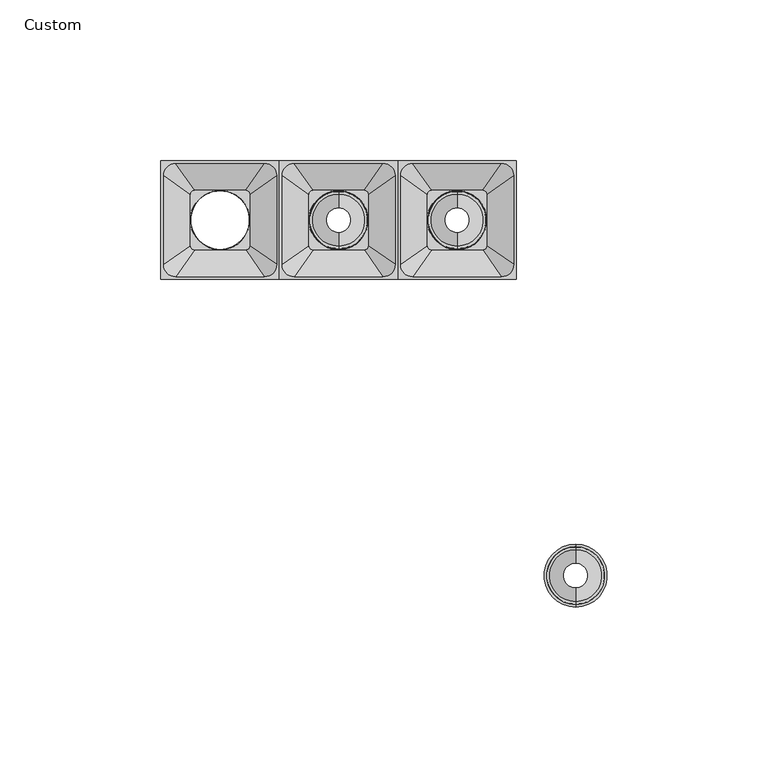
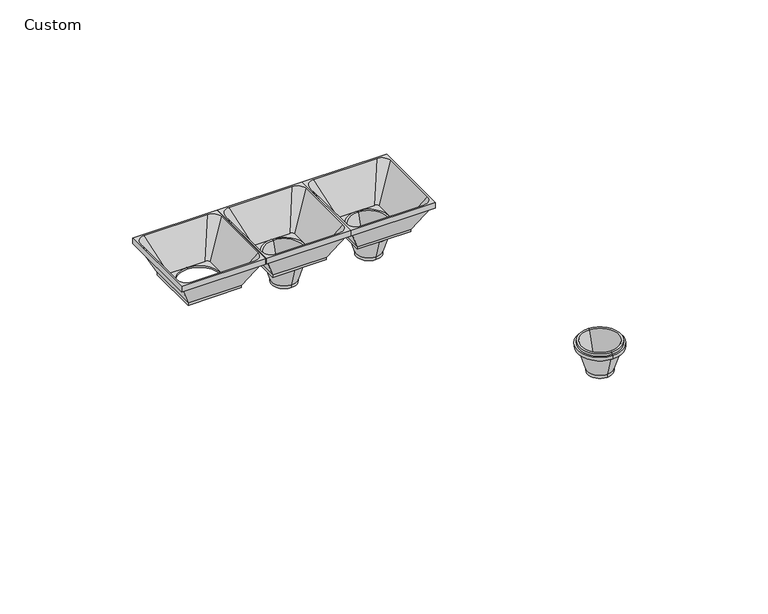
"""IFC4 building model written with IfcOpenShell, lengths in millimetres: light fixture geometry, Lighting-Pendant-Axis-Sculpt-Corner-MikroLite : Custom."""

from ifc_helpers import new_model, si_unit, point, frame, origin, place, context, project, spatial, polyline, circle_curve, ellipse_curve, trimmed, source, transform, mapped, element, save
from ifc_brep_helpers import plane_surface, revolved_surface, spline_surface, advanced_brep


def custom_0be98615(model_context):
    return source(origin(), model_context, "Body", "AdvancedBrep", [
        advanced_brep(
        [(0.0, -114.34, 658.77125), (0.0, -106.64, 658.77125), (0.0, -102.44, 672.47125), (0.0, -118.54, 672.47125), (0.0, -115.84, 658.77125), (0.0, -105.14, 658.77125), (0.0, -115.8765334, 660.012052), (0.0, -105.1034666, 660.012052), (0.0, -118.9159138, 669.87125), (0.0, -102.0640862, 669.87125), (0.0, -120.2260224, 669.87125), (0.0, -100.7539776, 669.87125), (0.0, -120.2886851, 671.3885205), (0.0, -100.6913149, 671.3885205), (0.0, -119.4949351, 671.3885205), (0.0, -101.4850649, 671.3885205), (0.0, -119.4760359, 672.47125), (0.0, -101.5039641, 672.47125)],
        [
            (0, 1, circle_curve(frame((0.0, -110.49, 658.77125), z_axis=(0.0, 0.0, -1.0), x_axis=(0.0, 1.0, 0.0)), 3.85)),
            (1, 2, circle_curve(frame((0.0, 80.1686551, 608.9952391), z_axis=(-1.0, 0.0, 0.0), x_axis=(0.0, -0.9662859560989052, 0.25747126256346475)), 193.3264722)),
            (2, 3, circle_curve(frame((0.0, -110.49, 672.47125), z_axis=(0.0, 0.0, 1.0), x_axis=(0.0, 1.0, 0.0)), 8.05)),
            (3, 0, circle_curve(frame((0.0, -301.1486551, 608.9952391), z_axis=(-1.0, 0.0, 0.0), x_axis=(0.0, 0.9662859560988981, 0.2574712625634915)), 193.3264722)),
            (1, 0, circle_curve(frame((0.0, -110.49, 658.77125), z_axis=(0.0, 0.0, -1.0), x_axis=(0.0, 1.0, 0.0)), 3.85)),
            (3, 2, circle_curve(frame((0.0, -110.49, 672.47125), z_axis=(0.0, 0.0, 1.0), x_axis=(0.0, 1.0, 0.0)), 8.05)),
            (4, 5, circle_curve(frame((0.0, -110.49, 658.77125), z_axis=(0.0, 0.0, -1.0), x_axis=(0.0, 1.0, 0.0)), 5.35)),
            (5, 1),
            (0, 4),
            (5, 4, circle_curve(frame((0.0, -110.49, 658.77125), z_axis=(0.0, 0.0, -1.0), x_axis=(0.0, 1.0, 0.0)), 5.35)),
            (6, 7, circle_curve(frame((0.0, -110.49, 660.012052), z_axis=(0.0, 0.0, -1.0), x_axis=(0.0, 1.0, 0.0)), 5.3865334)),
            (7, 5),
            (4, 6),
            (7, 6, circle_curve(frame((0.0, -110.49, 660.012052), z_axis=(0.0, 0.0, -1.0), x_axis=(0.0, 1.0, 0.0)), 5.3865334)),
            (8, 9, circle_curve(frame((0.0, -110.49, 669.87125), z_axis=(0.0, 0.0, -1.0), x_axis=(0.0, 1.0, 0.0)), 8.4259138)),
            (9, 7, circle_curve(frame((0.0, 67.8266089, 612.0994861), z_axis=(1.0, 0.0, 0.0), x_axis=(0.0, -0.9467575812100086, 0.32194732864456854)), 179.4447686)),
            (6, 8, circle_curve(frame((0.0, -288.8066089, 612.0994861), z_axis=(1.0, 0.0, 0.0), x_axis=(0.0, 0.9467575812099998, 0.32194732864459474)), 179.4447686)),
            (9, 8, circle_curve(frame((0.0, -110.49, 669.87125), z_axis=(0.0, 0.0, -1.0), x_axis=(0.0, 1.0, 0.0)), 8.4259138)),
            (10, 11, circle_curve(frame((0.0, -110.49, 669.87125), z_axis=(0.0, 0.0, -1.0), x_axis=(0.0, 1.0, 0.0)), 9.7360224)),
            (11, 9),
            (8, 10),
            (11, 10, circle_curve(frame((0.0, -110.49, 669.87125), z_axis=(0.0, 0.0, -1.0), x_axis=(0.0, 1.0, 0.0)), 9.7360224)),
            (12, 13, circle_curve(frame((0.0, -110.49, 671.3885205), z_axis=(0.0, 0.0, -1.0), x_axis=(0.0, 1.0, 0.0)), 9.7986851)),
            (13, 11),
            (10, 12),
            (13, 12, circle_curve(frame((0.0, -110.49, 671.3885205), z_axis=(0.0, 0.0, -1.0), x_axis=(0.0, 1.0, 0.0)), 9.7986851)),
            (14, 15, circle_curve(frame((0.0, -110.49, 671.3885205), z_axis=(0.0, 0.0, -1.0), x_axis=(0.0, 1.0, 0.0)), 9.0049351)),
            (15, 13),
            (12, 14),
            (15, 14, circle_curve(frame((0.0, -110.49, 671.3885205), z_axis=(0.0, 0.0, -1.0), x_axis=(0.0, 1.0, 0.0)), 9.0049351)),
            (16, 17, circle_curve(frame((0.0, -110.49, 672.47125), z_axis=(0.0, 0.0, -1.0), x_axis=(0.0, 1.0, 0.0)), 8.9860359)),
            (17, 15),
            (14, 16),
            (17, 16, circle_curve(frame((0.0, -110.49, 672.47125), z_axis=(0.0, 0.0, -1.0), x_axis=(0.0, 1.0, 0.0)), 8.9860359)),
            (2, 17),
            (16, 3),
        ],
        [
            revolved_surface(trimmed(ellipse_curve(frame((0.0, 80.1686551, 608.9952391), z_axis=(1.0, 0.0, 0.0), x_axis=(0.0, -0.9662859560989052, 0.25747126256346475)), 193.3264722, 193.3264722), [point((0.0, -102.44, 672.47125))], [point((0.0, -106.64, 658.77125))], True, "CARTESIAN"), (0.0, -110.49, 3030.4005443), (0.0, 0.0, 1.0)),
            plane_surface(frame((0.0, -110.49, 658.77125), z_axis=(0.0, 0.0, -1.0), x_axis=(0.0, 1.0, 0.0))),
            revolved_surface(polyline([(0.0, -105.14, 658.77125), (0.0, -105.1034666, 660.012052)]), (0.0, -110.49, 3030.4005443), (0.0, 0.0, 1.0)),
            revolved_surface(trimmed(ellipse_curve(frame((0.0, 67.8266089, 612.0994861), z_axis=(-1.0, 0.0, 0.0), x_axis=(0.0, -0.9467575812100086, 0.32194732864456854)), 179.4447686, 179.4447686), [point((0.0, -105.1034666, 660.012052))], [point((0.0, -102.0640862, 669.87125))], True, "CARTESIAN"), (0.0, -110.49, 3030.4005443), (0.0, 0.0, 1.0)),
            plane_surface(frame((0.0, -110.49, 669.87125), z_axis=(0.0, 0.0, -1.0), x_axis=(0.0, 1.0, 0.0))),
            revolved_surface(polyline([(0.0, -100.7539776, 669.87125), (0.0, -100.6913149, 671.3885205)]), (0.0, -110.49, 3030.4005443), (0.0, 0.0, 1.0)),
            plane_surface(frame((0.0, -110.49, 671.3885205), z_axis=(0.0, 0.0, 1.0), x_axis=(0.0, 1.0, 0.0))),
            revolved_surface(polyline([(0.0, -101.4850649, 671.3885205), (0.0, -101.5039641, 672.47125)]), (0.0, -110.49, 3030.4005443), (0.0, 0.0, 1.0)),
            plane_surface(frame((0.0, -110.49, 672.47125), z_axis=(0.0, 0.0, 1.0), x_axis=(0.0, 1.0, 0.0))),
        ],
        [
            (0, [[1, 2, 3, 4]]),
            (0, [[5, -4, 6, -2]]),
            (1, [[7, 8, -1, 9]]),
            (1, [[10, -9, -5, -8]]),
            (2, [[11, 12, -7, 13]]),
            (2, [[14, -13, -10, -12]]),
            (3, [[15, 16, -11, 17]]),
            (3, [[18, -17, -14, -16]]),
            (4, [[19, 20, -15, 21]]),
            (4, [[22, -21, -18, -20]]),
            (5, [[23, 24, -19, 25]]),
            (5, [[26, -25, -22, -24]]),
            (6, [[27, 28, -23, 29]]),
            (6, [[30, -29, -26, -28]]),
            (7, [[31, 32, -27, 33]]),
            (7, [[34, -33, -30, -32]]),
            (8, [[-3, 35, -31, 36]]),
            (8, [[-6, -36, -34, -35]]),
        ],
    ),
        advanced_brep(
        [(-85.2302329, 11.5702329, 672.4768563), (-85.2302329, 11.5702329, 671.3885205), (-85.2302329, -11.5702329, 671.3885205), (-85.2302329, -11.5702329, 672.4768563), (-90.8955213, -17.2355213, 684.05375), (-90.8955213, 17.2355213, 684.05375), (-92.075, 18.415, 686.59375), (-92.075, 18.415, 684.05375), (-92.075, -18.415, 684.05375), (-92.075, -18.415, 686.59375), (-62.0897671, -11.5702329, 671.3885205), (-62.0897671, -11.5702329, 672.4768563), (-56.4244787, -17.2355213, 684.05375), (-55.245, -18.415, 684.05375), (-55.245, -18.415, 686.59375), (-62.0897671, 11.5702329, 671.3885205), (-62.0897671, 11.5702329, 672.4768563), (-56.4244787, 17.2355213, 684.05375), (-55.245, 18.415, 684.05375), (-55.245, 18.415, 686.59375), (-91.2495, -13.7795, 686.59375), (-91.2495, 13.7795, 686.59375), (-87.4395, 17.5895, 686.59375), (-59.8805, 17.5895, 686.59375), (-56.0705, 13.7795, 686.59375), (-56.0705, -13.7795, 686.59375), (-59.8805, -17.5895, 686.59375), (-87.4395, -17.5895, 686.59375), (-73.66, 9.1446644, 671.3885205), (-73.66, -9.1446644, 671.3885205), (-82.8738442, -7.9438442, 672.17925), (-81.6038442, -9.2138442, 672.17925), (-73.66, -9.2138442, 672.17925), (-82.8738442, 0.0, 672.17925), (-65.7161558, -9.2138442, 672.17925), (-64.4461558, -7.9438442, 672.17925), (-64.4461558, 0.0, 672.17925), (-64.4461558, 7.9438442, 672.17925), (-65.7161558, 9.2138442, 672.17925), (-73.66, 9.2138442, 672.17925), (-81.6038442, 9.2138442, 672.17925), (-82.8738442, 7.9438442, 672.17925)],
        [
            (0, 1),
            (1, 2),
            (2, 3),
            (3, 0),
            (3, 4),
            (4, 5),
            (5, 0),
            (6, 7),
            (7, 8),
            (8, 9),
            (9, 6),
            (2, 10),
            (10, 11),
            (11, 3),
            (11, 12),
            (12, 4),
            (8, 13),
            (13, 14),
            (14, 9),
            (10, 15),
            (15, 16),
            (16, 11),
            (16, 17),
            (17, 12),
            (13, 18),
            (18, 19),
            (19, 14),
            (0, 16),
            (15, 1),
            (5, 17),
            (7, 18),
            (6, 19),
            (20, 21),
            (21, 22, circle_curve(frame((-87.4395, 13.7795, 686.59375), z_axis=(0.0, 0.0, -1.0), x_axis=(1.0, 0.0, 0.0)), 3.81)),
            (22, 23),
            (23, 24, circle_curve(frame((-59.8805, 13.7795, 686.59375), z_axis=(0.0, 0.0, -1.0), x_axis=(1.0, 0.0, 0.0)), 3.81)),
            (24, 25),
            (25, 26, circle_curve(frame((-59.8805, -13.7795, 686.59375), z_axis=(0.0, 0.0, -1.0), x_axis=(1.0, 0.0, 0.0)), 3.81)),
            (26, 27),
            (27, 20, circle_curve(frame((-87.4395, -13.7795, 686.59375), z_axis=(0.0, 0.0, -1.0), x_axis=(1.0, 0.0, 0.0)), 3.81)),
            (28, 29, circle_curve(frame((-73.66, 0.0, 671.3885205), z_axis=(0.0, 0.0, 1.0), x_axis=(0.0, 1.0, 0.0)), 9.1446644)),
            (29, 28, circle_curve(frame((-73.66, 0.0, 671.3885205), z_axis=(0.0, 0.0, 1.0), x_axis=(0.0, 1.0, 0.0)), 9.1446644)),
            (30, 31, circle_curve(frame((-81.6038442, -7.9438442, 672.17925), z_axis=(0.0, 0.0, 1.0), x_axis=(1.0, 0.0, 0.0)), 1.27)),
            (31, 32),
            (32, 33, circle_curve(frame((-73.66, 0.0, 672.17925), z_axis=(0.0, 0.0, -1.0), x_axis=(0.0, 1.0, 0.0)), 9.2138442)),
            (33, 30),
            (34, 35, circle_curve(frame((-65.7161558, -7.9438442, 672.17925), z_axis=(0.0, 0.0, 1.0), x_axis=(1.0, 0.0, 0.0)), 1.27)),
            (35, 36),
            (36, 32, circle_curve(frame((-73.66, 0.0, 672.17925), z_axis=(0.0, 0.0, -1.0), x_axis=(0.0, 1.0, 0.0)), 9.2138442)),
            (32, 34),
            (37, 38, circle_curve(frame((-65.7161558, 7.9438442, 672.17925), z_axis=(0.0, 0.0, 1.0), x_axis=(1.0, 0.0, 0.0)), 1.27)),
            (38, 39),
            (39, 36, circle_curve(frame((-73.66, 0.0, 672.17925), z_axis=(0.0, 0.0, -1.0), x_axis=(0.0, 1.0, 0.0)), 9.2138442)),
            (36, 37),
            (40, 41, circle_curve(frame((-81.6038442, 7.9438442, 672.17925), z_axis=(0.0, 0.0, 1.0), x_axis=(1.0, 0.0, 0.0)), 1.27)),
            (41, 33),
            (33, 39, circle_curve(frame((-73.66, 0.0, 672.17925), z_axis=(0.0, 0.0, -1.0), x_axis=(0.0, 1.0, 0.0)), 9.2138442)),
            (39, 40),
            (20, 30),
            (41, 21),
            (27, 31),
            (26, 34),
            (25, 35),
            (24, 37),
            (23, 38),
            (22, 40),
            (32, 29),
            (28, 39),
        ],
        [
            plane_surface(frame((-85.2302329, 11.5702329, 671.3885205), z_axis=(-1.0, 0.0, 0.0), x_axis=(0.0, -1.0, 0.0))),
            plane_surface(frame((-85.2302329, 11.5702329, 672.4768563), z_axis=(-0.8982167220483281, 0.0, -0.43955286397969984), x_axis=(0.0, -1.0, 0.0))),
            plane_surface(frame((-92.075, 18.415, 684.05375), z_axis=(-1.0, 0.0, 0.0), x_axis=(0.0, -1.0, 0.0))),
            plane_surface(frame((-85.2302329, -11.5702329, 671.3885205), z_axis=(0.0, -1.0, 0.0), x_axis=(1.0, 0.0, 0.0))),
            plane_surface(frame((-85.2302329, -11.5702329, 672.4768563), z_axis=(0.0, -0.8982167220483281, -0.43955286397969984), x_axis=(1.0, 0.0, 0.0))),
            plane_surface(frame((-92.075, -18.415, 684.05375), z_axis=(0.0, -1.0, 0.0), x_axis=(1.0, 0.0, 0.0))),
            plane_surface(frame((-62.0897671, -11.5702329, 671.3885205), z_axis=(1.0, 0.0, 0.0), x_axis=(0.0, 1.0, 0.0))),
            plane_surface(frame((-62.0897671, -11.5702329, 672.4768563), z_axis=(0.8982167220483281, 0.0, -0.43955286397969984), x_axis=(0.0, 1.0, 0.0))),
            plane_surface(frame((-55.245, -18.415, 684.05375), z_axis=(1.0, 0.0, 0.0), x_axis=(0.0, 1.0, 0.0))),
            plane_surface(frame((-62.0897671, 11.5702329, 671.3885205), z_axis=(0.0, 1.0, 0.0), x_axis=(-1.0, 0.0, 0.0))),
            plane_surface(frame((-62.0897671, 11.5702329, 672.4768563), z_axis=(0.0, 0.8982167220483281, -0.43955286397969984), x_axis=(-1.0, 0.0, 0.0))),
            plane_surface(frame((-56.4244787, 17.2355213, 684.05375), z_axis=(0.0, 0.0, -1.0), x_axis=(-1.0, 0.0, 0.0))),
            plane_surface(frame((-55.245, 18.415, 684.05375), z_axis=(0.0, 1.0, 0.0), x_axis=(-1.0, 0.0, 0.0))),
            plane_surface(frame((-55.245, 18.415, 686.59375), z_axis=(0.0, 0.0, 1.0), x_axis=(-1.0, 0.0, 0.0))),
            plane_surface(frame((-73.66, 0.0, 671.3885205), z_axis=(0.0, 0.0, -1.0), x_axis=(-1.0, 0.0, 0.0))),
            plane_surface(frame((-73.66, 0.0, 672.17925), z_axis=(0.0, 0.0, 1.0), x_axis=(0.0, -1.0, 0.0))),
            plane_surface(frame((-91.2495, 0.0, 686.59375), z_axis=(0.8646340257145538, 0.0, 0.5024022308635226), x_axis=(0.0, 1.0, 0.0))),
            spline_surface(1, 2, [[(-87.4395, -17.5895, 686.59375), (-91.2495, -17.5895, 686.59375), (-91.2495, -13.7795, 686.59375)], [(-81.6038442, -9.2138442, 672.17925), (-82.8738442, -9.2138442, 672.17925), (-82.8738442, -7.9438442, 672.17925)]], [2, 2], [3, 3], [0.0, 1.0], [0.0, 1.0], weights=[[1.0, 0.7071067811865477, 1.0], [1.0, 0.7071067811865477, 1.0]]),
            plane_surface(frame((-73.66, -17.5895, 686.59375), z_axis=(0.0, 0.8646340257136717, 0.5024022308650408), x_axis=(-1.0, 0.0, 0.0))),
            spline_surface(1, 2, [[(-56.0705, -13.7795, 686.59375), (-56.07050000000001, -17.589499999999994, 686.59375), (-59.8805, -17.5895, 686.59375)], [(-64.4461558, -7.9438442, 672.17925), (-64.4461558, -9.213844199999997, 672.17925), (-65.7161558, -9.2138442, 672.17925)]], [2, 2], [3, 3], [0.0, 1.0], [0.0, 1.0], weights=[[1.0, 0.7071067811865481, 1.0], [1.0, 0.7071067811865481, 1.0]]),
            plane_surface(frame((-56.0705, 0.0, 686.59375), z_axis=(-0.8646340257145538, 0.0, 0.5024022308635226), x_axis=(0.0, -1.0, 0.0))),
            spline_surface(1, 2, [[(-59.8805, 17.5895, 686.59375), (-56.070499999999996, 17.589500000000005, 686.59375), (-56.0705, 13.7795, 686.59375)], [(-65.7161558, 9.2138442, 672.17925), (-64.4461558, 9.213844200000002, 672.17925), (-64.4461558, 7.9438442, 672.17925)]], [2, 2], [3, 3], [0.0, 1.0], [0.0, 1.0], weights=[[1.0, 0.707106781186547, 1.0], [1.0, 0.707106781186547, 1.0]]),
            plane_surface(frame((-73.66, 17.5895, 686.59375), z_axis=(0.0, -0.8646340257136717, 0.5024022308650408), x_axis=(1.0, 0.0, 0.0))),
            spline_surface(1, 2, [[(-91.2495, 13.7795, 686.59375), (-91.2495, 17.5895, 686.59375), (-87.4395, 17.5895, 686.59375)], [(-82.8738442, 7.9438442, 672.17925), (-82.8738442, 9.213844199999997, 672.17925), (-81.6038442, 9.2138442, 672.17925)]], [2, 2], [3, 3], [0.0, 1.0], [0.0, 1.0], weights=[[1.0, 0.7071067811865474, 1.0], [1.0, 0.7071067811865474, 1.0]]),
            revolved_surface(polyline([(-73.66, 9.2138442, 672.17925), (-73.66, 9.1446644, 671.3885205)]), (-73.66, 0.0, 3030.4005443), (0.0, 0.0, 1.0)),
        ],
        [
            (0, [[1, 2, 3, 4]]),
            (1, [[-4, 5, 6, 7]]),
            (2, [[8, 9, 10, 11]]),
            (3, [[-3, 12, 13, 14]]),
            (4, [[-5, -14, 15, 16]]),
            (5, [[-10, 17, 18, 19]]),
            (6, [[-13, 20, 21, 22]]),
            (7, [[-15, -22, 23, 24]]),
            (8, [[-18, 25, 26, 27]]),
            (9, [[-1, 28, -21, 29]]),
            (10, [[-7, 30, -23, -28]]),
            (11, [[-9, 31, -25, -17], [-6, -16, -24, -30]]),
            (12, [[-8, 32, -26, -31]]),
            (13, [[-11, -19, -27, -32], [33, 34, 35, 36, 37, 38, 39, 40]]),
            (14, [[-2, -29, -20, -12], [41, 42]]),
            (15, [[43, 44, 45, 46]]),
            (15, [[47, 48, 49, 50]]),
            (15, [[51, 52, 53, 54]]),
            (15, [[55, 56, 57, 58]]),
            (16, [[59, -46, -56, 60, -33]]),
            (17, [[-43, -59, -40, 61]]),
            (18, [[-61, -39, 62, -50, -44]]),
            (19, [[-47, -62, -38, 63]]),
            (20, [[-63, -37, 64, -54, -48]]),
            (21, [[-51, -64, -36, 65]]),
            (22, [[-65, -35, 66, -58, -52]]),
            (23, [[-55, -66, -34, -60]]),
            (24, [[67, -41, 68, -57, -45]]),
            (24, [[-67, -49, -53, -68, -42]]),
        ],
    ),
        advanced_brep(
        [(-73.66, -3.85, 658.77125), (-73.66, 3.85, 658.77125), (-73.66, 8.05, 672.47125), (-73.66, -8.05, 672.47125), (-73.66, -5.35, 658.77125), (-73.66, 5.35, 658.77125), (-73.66, -5.3865334, 660.012052), (-73.66, 5.3865334, 660.012052), (-73.66, -8.4259138, 669.87125), (-73.66, 8.4259138, 669.87125), (-73.66, -9.7360224, 669.87125), (-73.66, 9.7360224, 669.87125), (-73.66, -9.7986851, 671.3885205), (-73.66, 9.7986851, 671.3885205), (-73.66, -9.0049351, 671.3885205), (-73.66, 9.0049351, 671.3885205), (-73.66, -8.9860359, 672.47125), (-73.66, 8.9860359, 672.47125)],
        [
            (0, 1, circle_curve(frame((-73.66, 0.0, 658.77125), z_axis=(0.0, 0.0, -1.0), x_axis=(0.0, 1.0, 0.0)), 3.85)),
            (1, 2, circle_curve(frame((-73.66, 190.6586551, 608.9952391), z_axis=(-1.0, 0.0, 0.0), x_axis=(0.0, -0.9662859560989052, 0.25747126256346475)), 193.3264722)),
            (2, 3, circle_curve(frame((-73.66, 0.0, 672.47125), z_axis=(0.0, 0.0, 1.0), x_axis=(0.0, 1.0, 0.0)), 8.05)),
            (3, 0, circle_curve(frame((-73.66, -190.6586551, 608.9952391), z_axis=(-1.0, 0.0, 0.0), x_axis=(0.0, 0.9662859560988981, 0.2574712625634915)), 193.3264722)),
            (1, 0, circle_curve(frame((-73.66, 0.0, 658.77125), z_axis=(0.0, 0.0, -1.0), x_axis=(0.0, 1.0, 0.0)), 3.85)),
            (3, 2, circle_curve(frame((-73.66, 0.0, 672.47125), z_axis=(0.0, 0.0, 1.0), x_axis=(0.0, 1.0, 0.0)), 8.05)),
            (4, 5, circle_curve(frame((-73.66, 0.0, 658.77125), z_axis=(0.0, 0.0, -1.0), x_axis=(0.0, 1.0, 0.0)), 5.35)),
            (5, 1),
            (0, 4),
            (5, 4, circle_curve(frame((-73.66, 0.0, 658.77125), z_axis=(0.0, 0.0, -1.0), x_axis=(0.0, 1.0, 0.0)), 5.35)),
            (6, 7, circle_curve(frame((-73.66, 0.0, 660.012052), z_axis=(0.0, 0.0, -1.0), x_axis=(0.0, 1.0, 0.0)), 5.3865334)),
            (7, 5),
            (4, 6),
            (7, 6, circle_curve(frame((-73.66, 0.0, 660.012052), z_axis=(0.0, 0.0, -1.0), x_axis=(0.0, 1.0, 0.0)), 5.3865334)),
            (8, 9, circle_curve(frame((-73.66, 0.0, 669.87125), z_axis=(0.0, 0.0, -1.0), x_axis=(0.0, 1.0, 0.0)), 8.4259138)),
            (9, 7, circle_curve(frame((-73.66, 178.3166089, 612.0994861), z_axis=(1.0, 0.0, 0.0), x_axis=(0.0, -0.9467575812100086, 0.32194732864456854)), 179.4447686)),
            (6, 8, circle_curve(frame((-73.66, -178.3166089, 612.0994861), z_axis=(1.0, 0.0, 0.0), x_axis=(0.0, 0.9467575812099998, 0.32194732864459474)), 179.4447686)),
            (9, 8, circle_curve(frame((-73.66, 0.0, 669.87125), z_axis=(0.0, 0.0, -1.0), x_axis=(0.0, 1.0, 0.0)), 8.4259138)),
            (10, 11, circle_curve(frame((-73.66, 0.0, 669.87125), z_axis=(0.0, 0.0, -1.0), x_axis=(0.0, 1.0, 0.0)), 9.7360224)),
            (11, 9),
            (8, 10),
            (11, 10, circle_curve(frame((-73.66, 0.0, 669.87125), z_axis=(0.0, 0.0, -1.0), x_axis=(0.0, 1.0, 0.0)), 9.7360224)),
            (12, 13, circle_curve(frame((-73.66, 0.0, 671.3885205), z_axis=(0.0, 0.0, -1.0), x_axis=(0.0, 1.0, 0.0)), 9.7986851)),
            (13, 11),
            (10, 12),
            (13, 12, circle_curve(frame((-73.66, 0.0, 671.3885205), z_axis=(0.0, 0.0, -1.0), x_axis=(0.0, 1.0, 0.0)), 9.7986851)),
            (14, 15, circle_curve(frame((-73.66, 0.0, 671.3885205), z_axis=(0.0, 0.0, -1.0), x_axis=(0.0, 1.0, 0.0)), 9.0049351)),
            (15, 13),
            (12, 14),
            (15, 14, circle_curve(frame((-73.66, 0.0, 671.3885205), z_axis=(0.0, 0.0, -1.0), x_axis=(0.0, 1.0, 0.0)), 9.0049351)),
            (16, 17, circle_curve(frame((-73.66, 0.0, 672.47125), z_axis=(0.0, 0.0, -1.0), x_axis=(0.0, 1.0, 0.0)), 8.9860359)),
            (17, 15),
            (14, 16),
            (17, 16, circle_curve(frame((-73.66, 0.0, 672.47125), z_axis=(0.0, 0.0, -1.0), x_axis=(0.0, 1.0, 0.0)), 8.9860359)),
            (2, 17),
            (16, 3),
        ],
        [
            revolved_surface(trimmed(ellipse_curve(frame((-73.66, 190.6586551, 608.9952391), z_axis=(1.0, 0.0, 0.0), x_axis=(0.0, -0.9662859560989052, 0.25747126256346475)), 193.3264722, 193.3264722), [point((-73.66, 8.05, 672.47125))], [point((-73.66, 3.85, 658.77125))], True, "CARTESIAN"), (-73.66, 0.0, 3030.4005443), (0.0, 0.0, 1.0)),
            plane_surface(frame((-73.66, 0.0, 658.77125), z_axis=(0.0, 0.0, -1.0), x_axis=(0.0, 1.0, 0.0))),
            revolved_surface(polyline([(-73.66, 5.35, 658.77125), (-73.66, 5.3865334, 660.012052)]), (-73.66, 0.0, 3030.4005443), (0.0, 0.0, 1.0)),
            revolved_surface(trimmed(ellipse_curve(frame((-73.66, 178.3166089, 612.0994861), z_axis=(-1.0, 0.0, 0.0), x_axis=(0.0, -0.9467575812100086, 0.32194732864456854)), 179.4447686, 179.4447686), [point((-73.66, 5.3865334, 660.012052))], [point((-73.66, 8.4259138, 669.87125))], True, "CARTESIAN"), (-73.66, 0.0, 3030.4005443), (0.0, 0.0, 1.0)),
            plane_surface(frame((-73.66, 0.0, 669.87125), z_axis=(0.0, 0.0, -1.0), x_axis=(0.0, 1.0, 0.0))),
            revolved_surface(polyline([(-73.66, 9.7360224, 669.87125), (-73.66, 9.7986851, 671.3885205)]), (-73.66, 0.0, 3030.4005443), (0.0, 0.0, 1.0)),
            plane_surface(frame((-73.66, 0.0, 671.3885205), z_axis=(0.0, 0.0, 1.0), x_axis=(0.0, 1.0, 0.0))),
            revolved_surface(polyline([(-73.66, 9.0049351, 671.3885205), (-73.66, 8.9860359, 672.47125)]), (-73.66, 0.0, 3030.4005443), (0.0, 0.0, 1.0)),
            plane_surface(frame((-73.66, 0.0, 672.47125), z_axis=(0.0, 0.0, 1.0), x_axis=(0.0, 1.0, 0.0))),
        ],
        [
            (0, [[1, 2, 3, 4]]),
            (0, [[5, -4, 6, -2]]),
            (1, [[7, 8, -1, 9]]),
            (1, [[10, -9, -5, -8]]),
            (2, [[11, 12, -7, 13]]),
            (2, [[14, -13, -10, -12]]),
            (3, [[15, 16, -11, 17]]),
            (3, [[18, -17, -14, -16]]),
            (4, [[19, 20, -15, 21]]),
            (4, [[22, -21, -18, -20]]),
            (5, [[23, 24, -19, 25]]),
            (5, [[26, -25, -22, -24]]),
            (6, [[27, 28, -23, 29]]),
            (6, [[30, -29, -26, -28]]),
            (7, [[31, 32, -27, 33]]),
            (7, [[34, -33, -30, -32]]),
            (8, [[-3, 35, -31, 36]]),
            (8, [[-6, -36, -34, -35]]),
        ],
    ),
        advanced_brep(
        [(-48.4002329, 11.5702329, 672.4768563), (-48.4002329, 11.5702329, 671.3885205), (-48.4002329, -11.5702329, 671.3885205), (-48.4002329, -11.5702329, 672.4768563), (-54.0655213, -17.2355213, 684.05375), (-54.0655213, 17.2355213, 684.05375), (-55.245, 18.415, 686.59375), (-55.245, 18.415, 684.05375), (-55.245, -18.415, 684.05375), (-55.245, -18.415, 686.59375), (-25.2597671, -11.5702329, 671.3885205), (-25.2597671, -11.5702329, 672.4768563), (-19.5944787, -17.2355213, 684.05375), (-18.415, -18.415, 684.05375), (-18.415, -18.415, 686.59375), (-25.2597671, 11.5702329, 671.3885205), (-25.2597671, 11.5702329, 672.4768563), (-19.5944787, 17.2355213, 684.05375), (-18.415, 18.415, 684.05375), (-18.415, 18.415, 686.59375), (-54.4195, -13.7795, 686.59375), (-54.4195, 13.7795, 686.59375), (-50.6095, 17.5895, 686.59375), (-23.0505, 17.5895, 686.59375), (-19.2405, 13.7795, 686.59375), (-19.2405, -13.7795, 686.59375), (-23.0505, -17.5895, 686.59375), (-50.6095, -17.5895, 686.59375), (-36.83, 9.1446644, 671.3885205), (-36.83, -9.1446644, 671.3885205), (-46.0438442, -7.9438442, 672.17925), (-44.7738442, -9.2138442, 672.17925), (-36.83, -9.2138442, 672.17925), (-46.0438442, 0.0, 672.17925), (-28.8861558, -9.2138442, 672.17925), (-27.6161558, -7.9438442, 672.17925), (-27.6161558, 0.0, 672.17925), (-27.6161558, 7.9438442, 672.17925), (-28.8861558, 9.2138442, 672.17925), (-36.83, 9.2138442, 672.17925), (-44.7738442, 9.2138442, 672.17925), (-46.0438442, 7.9438442, 672.17925)],
        [
            (0, 1),
            (1, 2),
            (2, 3),
            (3, 0),
            (3, 4),
            (4, 5),
            (5, 0),
            (6, 7),
            (7, 8),
            (8, 9),
            (9, 6),
            (2, 10),
            (10, 11),
            (11, 3),
            (11, 12),
            (12, 4),
            (8, 13),
            (13, 14),
            (14, 9),
            (10, 15),
            (15, 16),
            (16, 11),
            (16, 17),
            (17, 12),
            (13, 18),
            (18, 19),
            (19, 14),
            (0, 16),
            (15, 1),
            (5, 17),
            (7, 18),
            (6, 19),
            (20, 21),
            (21, 22, circle_curve(frame((-50.6095, 13.7795, 686.59375), z_axis=(0.0, 0.0, -1.0), x_axis=(1.0, 0.0, 0.0)), 3.81)),
            (22, 23),
            (23, 24, circle_curve(frame((-23.0505, 13.7795, 686.59375), z_axis=(0.0, 0.0, -1.0), x_axis=(1.0, 0.0, 0.0)), 3.81)),
            (24, 25),
            (25, 26, circle_curve(frame((-23.0505, -13.7795, 686.59375), z_axis=(0.0, 0.0, -1.0), x_axis=(1.0, 0.0, 0.0)), 3.81)),
            (26, 27),
            (27, 20, circle_curve(frame((-50.6095, -13.7795, 686.59375), z_axis=(0.0, 0.0, -1.0), x_axis=(1.0, 0.0, 0.0)), 3.81)),
            (28, 29, circle_curve(frame((-36.83, 0.0, 671.3885205), z_axis=(0.0, 0.0, 1.0), x_axis=(0.0, 1.0, 0.0)), 9.1446644)),
            (29, 28, circle_curve(frame((-36.83, 0.0, 671.3885205), z_axis=(0.0, 0.0, 1.0), x_axis=(0.0, 1.0, 0.0)), 9.1446644)),
            (30, 31, circle_curve(frame((-44.7738442, -7.9438442, 672.17925), z_axis=(0.0, 0.0, 1.0), x_axis=(1.0, 0.0, 0.0)), 1.27)),
            (31, 32),
            (32, 33, circle_curve(frame((-36.83, 0.0, 672.17925), z_axis=(0.0, 0.0, -1.0), x_axis=(0.0, 1.0, 0.0)), 9.2138442)),
            (33, 30),
            (34, 35, circle_curve(frame((-28.8861558, -7.9438442, 672.17925), z_axis=(0.0, 0.0, 1.0), x_axis=(1.0, 0.0, 0.0)), 1.27)),
            (35, 36),
            (36, 32, circle_curve(frame((-36.83, 0.0, 672.17925), z_axis=(0.0, 0.0, -1.0), x_axis=(0.0, 1.0, 0.0)), 9.2138442)),
            (32, 34),
            (37, 38, circle_curve(frame((-28.8861558, 7.9438442, 672.17925), z_axis=(0.0, 0.0, 1.0), x_axis=(1.0, 0.0, 0.0)), 1.27)),
            (38, 39),
            (39, 36, circle_curve(frame((-36.83, 0.0, 672.17925), z_axis=(0.0, 0.0, -1.0), x_axis=(0.0, 1.0, 0.0)), 9.2138442)),
            (36, 37),
            (40, 41, circle_curve(frame((-44.7738442, 7.9438442, 672.17925), z_axis=(0.0, 0.0, 1.0), x_axis=(1.0, 0.0, 0.0)), 1.27)),
            (41, 33),
            (33, 39, circle_curve(frame((-36.83, 0.0, 672.17925), z_axis=(0.0, 0.0, -1.0), x_axis=(0.0, 1.0, 0.0)), 9.2138442)),
            (39, 40),
            (20, 30),
            (41, 21),
            (27, 31),
            (26, 34),
            (25, 35),
            (24, 37),
            (23, 38),
            (22, 40),
            (32, 29),
            (28, 39),
        ],
        [
            plane_surface(frame((-48.4002329, 11.5702329, 671.3885205), z_axis=(-1.0, 0.0, 0.0), x_axis=(0.0, -1.0, 0.0))),
            plane_surface(frame((-48.4002329, 11.5702329, 672.4768563), z_axis=(-0.8982167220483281, 0.0, -0.43955286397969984), x_axis=(0.0, -1.0, 0.0))),
            plane_surface(frame((-55.245, 18.415, 684.05375), z_axis=(-1.0, 0.0, 0.0), x_axis=(0.0, -1.0, 0.0))),
            plane_surface(frame((-48.4002329, -11.5702329, 671.3885205), z_axis=(0.0, -1.0, 0.0), x_axis=(1.0, 0.0, 0.0))),
            plane_surface(frame((-48.4002329, -11.5702329, 672.4768563), z_axis=(0.0, -0.8982167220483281, -0.43955286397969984), x_axis=(1.0, 0.0, 0.0))),
            plane_surface(frame((-55.245, -18.415, 684.05375), z_axis=(0.0, -1.0, 0.0), x_axis=(1.0, 0.0, 0.0))),
            plane_surface(frame((-25.2597671, -11.5702329, 671.3885205), z_axis=(1.0, 0.0, 0.0), x_axis=(0.0, 1.0, 0.0))),
            plane_surface(frame((-25.2597671, -11.5702329, 672.4768563), z_axis=(0.8982167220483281, 0.0, -0.43955286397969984), x_axis=(0.0, 1.0, 0.0))),
            plane_surface(frame((-18.415, -18.415, 684.05375), z_axis=(1.0, 0.0, 0.0), x_axis=(0.0, 1.0, 0.0))),
            plane_surface(frame((-25.2597671, 11.5702329, 671.3885205), z_axis=(0.0, 1.0, 0.0), x_axis=(-1.0, 0.0, 0.0))),
            plane_surface(frame((-25.2597671, 11.5702329, 672.4768563), z_axis=(0.0, 0.8982167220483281, -0.43955286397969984), x_axis=(-1.0, 0.0, 0.0))),
            plane_surface(frame((-19.5944787, 17.2355213, 684.05375), z_axis=(0.0, 0.0, -1.0), x_axis=(-1.0, 0.0, 0.0))),
            plane_surface(frame((-18.415, 18.415, 684.05375), z_axis=(0.0, 1.0, 0.0), x_axis=(-1.0, 0.0, 0.0))),
            plane_surface(frame((-18.415, 18.415, 686.59375), z_axis=(0.0, 0.0, 1.0), x_axis=(-1.0, 0.0, 0.0))),
            plane_surface(frame((-36.83, 0.0, 671.3885205), z_axis=(0.0, 0.0, -1.0), x_axis=(-1.0, 0.0, 0.0))),
            plane_surface(frame((-36.83, 0.0, 672.17925), z_axis=(0.0, 0.0, 1.0), x_axis=(0.0, -1.0, 0.0))),
            plane_surface(frame((-54.4195, 0.0, 686.59375), z_axis=(0.8646340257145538, 0.0, 0.5024022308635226), x_axis=(0.0, 1.0, 0.0))),
            spline_surface(1, 2, [[(-50.6095, -17.5895, 686.59375), (-54.4195, -17.5895, 686.59375), (-54.4195, -13.7795, 686.59375)], [(-44.7738442, -9.2138442, 672.17925), (-46.0438442, -9.2138442, 672.17925), (-46.0438442, -7.9438442, 672.17925)]], [2, 2], [3, 3], [0.0, 1.0], [0.0, 1.0], weights=[[1.0, 0.7071067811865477, 1.0], [1.0, 0.7071067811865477, 1.0]]),
            plane_surface(frame((-36.83, -17.5895, 686.59375), z_axis=(0.0, 0.8646340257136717, 0.5024022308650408), x_axis=(-1.0, 0.0, 0.0))),
            spline_surface(1, 2, [[(-19.2405, -13.7795, 686.59375), (-19.240500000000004, -17.5895, 686.59375), (-23.0505, -17.5895, 686.59375)], [(-27.6161558, -7.9438442, 672.17925), (-27.6161558, -9.2138442, 672.17925), (-28.8861558, -9.2138442, 672.17925)]], [2, 2], [3, 3], [0.0, 1.0], [0.0, 1.0], weights=[[1.0, 0.7071067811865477, 1.0], [1.0, 0.7071067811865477, 1.0]]),
            plane_surface(frame((-19.2405, 0.0, 686.59375), z_axis=(-0.8646340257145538, 0.0, 0.5024022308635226), x_axis=(0.0, -1.0, 0.0))),
            spline_surface(1, 2, [[(-23.0505, 17.5895, 686.59375), (-19.240499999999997, 17.5895, 686.59375), (-19.2405, 13.7795, 686.59375)], [(-28.8861558, 9.2138442, 672.17925), (-27.6161558, 9.2138442, 672.17925), (-27.6161558, 7.9438442, 672.17925)]], [2, 2], [3, 3], [0.0, 1.0], [0.0, 1.0], weights=[[1.0, 0.7071067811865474, 1.0], [1.0, 0.7071067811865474, 1.0]]),
            plane_surface(frame((-36.83, 17.5895, 686.59375), z_axis=(0.0, -0.8646340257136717, 0.5024022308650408), x_axis=(1.0, 0.0, 0.0))),
            spline_surface(1, 2, [[(-54.4195, 13.7795, 686.59375), (-54.4195, 17.5895, 686.59375), (-50.6095, 17.5895, 686.59375)], [(-46.0438442, 7.9438442, 672.17925), (-46.0438442, 9.213844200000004, 672.17925), (-44.7738442, 9.2138442, 672.17925)]], [2, 2], [3, 3], [0.0, 1.0], [0.0, 1.0], weights=[[1.0, 0.7071067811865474, 1.0], [1.0, 0.7071067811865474, 1.0]]),
            revolved_surface(polyline([(-36.83, 9.2138442, 672.17925), (-36.83, 9.1446644, 671.3885205)]), (-36.83, 0.0, 3030.4005443), (0.0, 0.0, 1.0)),
        ],
        [
            (0, [[1, 2, 3, 4]]),
            (1, [[-4, 5, 6, 7]]),
            (2, [[8, 9, 10, 11]]),
            (3, [[-3, 12, 13, 14]]),
            (4, [[-5, -14, 15, 16]]),
            (5, [[-10, 17, 18, 19]]),
            (6, [[-13, 20, 21, 22]]),
            (7, [[-15, -22, 23, 24]]),
            (8, [[-18, 25, 26, 27]]),
            (9, [[-1, 28, -21, 29]]),
            (10, [[-7, 30, -23, -28]]),
            (11, [[-9, 31, -25, -17], [-6, -16, -24, -30]]),
            (12, [[-8, 32, -26, -31]]),
            (13, [[-11, -19, -27, -32], [33, 34, 35, 36, 37, 38, 39, 40]]),
            (14, [[-2, -29, -20, -12], [41, 42]]),
            (15, [[43, 44, 45, 46]]),
            (15, [[47, 48, 49, 50]]),
            (15, [[51, 52, 53, 54]]),
            (15, [[55, 56, 57, 58]]),
            (16, [[59, -46, -56, 60, -33]]),
            (17, [[-43, -59, -40, 61]]),
            (18, [[-61, -39, 62, -50, -44]]),
            (19, [[-47, -62, -38, 63]]),
            (20, [[-63, -37, 64, -54, -48]]),
            (21, [[-51, -64, -36, 65]]),
            (22, [[-65, -35, 66, -58, -52]]),
            (23, [[-55, -66, -34, -60]]),
            (24, [[67, -41, 68, -57, -45]]),
            (24, [[-67, -49, -53, -68, -42]]),
        ],
    ),
        advanced_brep(
        [(-36.83, -3.85, 658.77125), (-36.83, 3.85, 658.77125), (-36.83, 8.05, 672.47125), (-36.83, -8.05, 672.47125), (-36.83, -5.35, 658.77125), (-36.83, 5.35, 658.77125), (-36.83, -5.3865334, 660.012052), (-36.83, 5.3865334, 660.012052), (-36.83, -8.4259138, 669.87125), (-36.83, 8.4259138, 669.87125), (-36.83, -9.7360224, 669.87125), (-36.83, 9.7360224, 669.87125), (-36.83, -9.7986851, 671.3885205), (-36.83, 9.7986851, 671.3885205), (-36.83, -9.0049351, 671.3885205), (-36.83, 9.0049351, 671.3885205), (-36.83, -8.9860359, 672.47125), (-36.83, 8.9860359, 672.47125)],
        [
            (0, 1, circle_curve(frame((-36.83, 0.0, 658.77125), z_axis=(0.0, 0.0, -1.0), x_axis=(0.0, 1.0, 0.0)), 3.85)),
            (1, 2, circle_curve(frame((-36.83, 190.6586551, 608.9952391), z_axis=(-1.0, 0.0, 0.0), x_axis=(0.0, -0.9662859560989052, 0.25747126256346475)), 193.3264722)),
            (2, 3, circle_curve(frame((-36.83, 0.0, 672.47125), z_axis=(0.0, 0.0, 1.0), x_axis=(0.0, 1.0, 0.0)), 8.05)),
            (3, 0, circle_curve(frame((-36.83, -190.6586551, 608.9952391), z_axis=(-1.0, 0.0, 0.0), x_axis=(0.0, 0.9662859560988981, 0.2574712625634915)), 193.3264722)),
            (1, 0, circle_curve(frame((-36.83, 0.0, 658.77125), z_axis=(0.0, 0.0, -1.0), x_axis=(0.0, 1.0, 0.0)), 3.85)),
            (3, 2, circle_curve(frame((-36.83, 0.0, 672.47125), z_axis=(0.0, 0.0, 1.0), x_axis=(0.0, 1.0, 0.0)), 8.05)),
            (4, 5, circle_curve(frame((-36.83, 0.0, 658.77125), z_axis=(0.0, 0.0, -1.0), x_axis=(0.0, 1.0, 0.0)), 5.35)),
            (5, 1),
            (0, 4),
            (5, 4, circle_curve(frame((-36.83, 0.0, 658.77125), z_axis=(0.0, 0.0, -1.0), x_axis=(0.0, 1.0, 0.0)), 5.35)),
            (6, 7, circle_curve(frame((-36.83, 0.0, 660.012052), z_axis=(0.0, 0.0, -1.0), x_axis=(0.0, 1.0, 0.0)), 5.3865334)),
            (7, 5),
            (4, 6),
            (7, 6, circle_curve(frame((-36.83, 0.0, 660.012052), z_axis=(0.0, 0.0, -1.0), x_axis=(0.0, 1.0, 0.0)), 5.3865334)),
            (8, 9, circle_curve(frame((-36.83, 0.0, 669.87125), z_axis=(0.0, 0.0, -1.0), x_axis=(0.0, 1.0, 0.0)), 8.4259138)),
            (9, 7, circle_curve(frame((-36.83, 178.3166089, 612.0994861), z_axis=(1.0, 0.0, 0.0), x_axis=(0.0, -0.9467575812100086, 0.32194732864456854)), 179.4447686)),
            (6, 8, circle_curve(frame((-36.83, -178.3166089, 612.0994861), z_axis=(1.0, 0.0, 0.0), x_axis=(0.0, 0.9467575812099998, 0.32194732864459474)), 179.4447686)),
            (9, 8, circle_curve(frame((-36.83, 0.0, 669.87125), z_axis=(0.0, 0.0, -1.0), x_axis=(0.0, 1.0, 0.0)), 8.4259138)),
            (10, 11, circle_curve(frame((-36.83, 0.0, 669.87125), z_axis=(0.0, 0.0, -1.0), x_axis=(0.0, 1.0, 0.0)), 9.7360224)),
            (11, 9),
            (8, 10),
            (11, 10, circle_curve(frame((-36.83, 0.0, 669.87125), z_axis=(0.0, 0.0, -1.0), x_axis=(0.0, 1.0, 0.0)), 9.7360224)),
            (12, 13, circle_curve(frame((-36.83, 0.0, 671.3885205), z_axis=(0.0, 0.0, -1.0), x_axis=(0.0, 1.0, 0.0)), 9.7986851)),
            (13, 11),
            (10, 12),
            (13, 12, circle_curve(frame((-36.83, 0.0, 671.3885205), z_axis=(0.0, 0.0, -1.0), x_axis=(0.0, 1.0, 0.0)), 9.7986851)),
            (14, 15, circle_curve(frame((-36.83, 0.0, 671.3885205), z_axis=(0.0, 0.0, -1.0), x_axis=(0.0, 1.0, 0.0)), 9.0049351)),
            (15, 13),
            (12, 14),
            (15, 14, circle_curve(frame((-36.83, 0.0, 671.3885205), z_axis=(0.0, 0.0, -1.0), x_axis=(0.0, 1.0, 0.0)), 9.0049351)),
            (16, 17, circle_curve(frame((-36.83, 0.0, 672.47125), z_axis=(0.0, 0.0, -1.0), x_axis=(0.0, 1.0, 0.0)), 8.9860359)),
            (17, 15),
            (14, 16),
            (17, 16, circle_curve(frame((-36.83, 0.0, 672.47125), z_axis=(0.0, 0.0, -1.0), x_axis=(0.0, 1.0, 0.0)), 8.9860359)),
            (2, 17),
            (16, 3),
        ],
        [
            revolved_surface(trimmed(ellipse_curve(frame((-36.83, 190.6586551, 608.9952391), z_axis=(1.0, 0.0, 0.0), x_axis=(0.0, -0.9662859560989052, 0.25747126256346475)), 193.3264722, 193.3264722), [point((-36.83, 8.05, 672.47125))], [point((-36.83, 3.85, 658.77125))], True, "CARTESIAN"), (-36.83, 0.0, 3030.4005443), (0.0, 0.0, 1.0)),
            plane_surface(frame((-36.83, 0.0, 658.77125), z_axis=(0.0, 0.0, -1.0), x_axis=(0.0, 1.0, 0.0))),
            revolved_surface(polyline([(-36.83, 5.35, 658.77125), (-36.83, 5.3865334, 660.012052)]), (-36.83, 0.0, 3030.4005443), (0.0, 0.0, 1.0)),
            revolved_surface(trimmed(ellipse_curve(frame((-36.83, 178.3166089, 612.0994861), z_axis=(-1.0, 0.0, 0.0), x_axis=(0.0, -0.9467575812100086, 0.32194732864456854)), 179.4447686, 179.4447686), [point((-36.83, 5.3865334, 660.012052))], [point((-36.83, 8.4259138, 669.87125))], True, "CARTESIAN"), (-36.83, 0.0, 3030.4005443), (0.0, 0.0, 1.0)),
            plane_surface(frame((-36.83, 0.0, 669.87125), z_axis=(0.0, 0.0, -1.0), x_axis=(0.0, 1.0, 0.0))),
            revolved_surface(polyline([(-36.83, 9.7360224, 669.87125), (-36.83, 9.7986851, 671.3885205)]), (-36.83, 0.0, 3030.4005443), (0.0, 0.0, 1.0)),
            plane_surface(frame((-36.83, 0.0, 671.3885205), z_axis=(0.0, 0.0, 1.0), x_axis=(0.0, 1.0, 0.0))),
            revolved_surface(polyline([(-36.83, 9.0049351, 671.3885205), (-36.83, 8.9860359, 672.47125)]), (-36.83, 0.0, 3030.4005443), (0.0, 0.0, 1.0)),
            plane_surface(frame((-36.83, 0.0, 672.47125), z_axis=(0.0, 0.0, 1.0), x_axis=(0.0, 1.0, 0.0))),
        ],
        [
            (0, [[1, 2, 3, 4]]),
            (0, [[5, -4, 6, -2]]),
            (1, [[7, 8, -1, 9]]),
            (1, [[10, -9, -5, -8]]),
            (2, [[11, 12, -7, 13]]),
            (2, [[14, -13, -10, -12]]),
            (3, [[15, 16, -11, 17]]),
            (3, [[18, -17, -14, -16]]),
            (4, [[19, 20, -15, 21]]),
            (4, [[22, -21, -18, -20]]),
            (5, [[23, 24, -19, 25]]),
            (5, [[26, -25, -22, -24]]),
            (6, [[27, 28, -23, 29]]),
            (6, [[30, -29, -26, -28]]),
            (7, [[31, 32, -27, 33]]),
            (7, [[34, -33, -30, -32]]),
            (8, [[-3, 35, -31, 36]]),
            (8, [[-6, -36, -34, -35]]),
        ],
    ),
        advanced_brep(
        [(-122.0602329, 11.5702329, 672.4768563), (-122.0602329, 11.5702329, 671.3885205), (-122.0602329, -11.5702329, 671.3885205), (-122.0602329, -11.5702329, 672.4768563), (-127.7255213, -17.2355213, 684.05375), (-127.7255213, 17.2355213, 684.05375), (-128.905, 18.415, 686.59375), (-128.905, 18.415, 684.05375), (-128.905, -18.415, 684.05375), (-128.905, -18.415, 686.59375), (-98.9197671, -11.5702329, 671.3885205), (-98.9197671, -11.5702329, 672.4768563), (-93.2544787, -17.2355213, 684.05375), (-92.075, -18.415, 684.05375), (-92.075, -18.415, 686.59375), (-98.9197671, 11.5702329, 671.3885205), (-98.9197671, 11.5702329, 672.4768563), (-93.2544787, 17.2355213, 684.05375), (-92.075, 18.415, 684.05375), (-92.075, 18.415, 686.59375), (-128.0795, -13.7795, 686.59375), (-128.0795, 13.7795, 686.59375), (-124.2695, 17.5895, 686.59375), (-96.7105, 17.5895, 686.59375), (-92.9005, 13.7795, 686.59375), (-92.9005, -13.7795, 686.59375), (-96.7105, -17.5895, 686.59375), (-124.2695, -17.5895, 686.59375), (-110.49, 9.1446644, 671.3885205), (-110.49, -9.1446644, 671.3885205), (-119.7038442, -7.9438442, 672.17925), (-118.4338442, -9.2138442, 672.17925), (-110.49, -9.2138442, 672.17925), (-119.7038442, 0.0, 672.17925), (-102.5461558, -9.2138442, 672.17925), (-101.2761558, -7.9438442, 672.17925), (-101.2761558, 0.0, 672.17925), (-101.2761558, 7.9438442, 672.17925), (-102.5461558, 9.2138442, 672.17925), (-110.49, 9.2138442, 672.17925), (-118.4338442, 9.2138442, 672.17925), (-119.7038442, 7.9438442, 672.17925)],
        [
            (0, 1),
            (1, 2),
            (2, 3),
            (3, 0),
            (3, 4),
            (4, 5),
            (5, 0),
            (6, 7),
            (7, 8),
            (8, 9),
            (9, 6),
            (2, 10),
            (10, 11),
            (11, 3),
            (11, 12),
            (12, 4),
            (8, 13),
            (13, 14),
            (14, 9),
            (10, 15),
            (15, 16),
            (16, 11),
            (16, 17),
            (17, 12),
            (13, 18),
            (18, 19),
            (19, 14),
            (0, 16),
            (15, 1),
            (5, 17),
            (7, 18),
            (6, 19),
            (20, 21),
            (21, 22, circle_curve(frame((-124.2695, 13.7795, 686.59375), z_axis=(0.0, 0.0, -1.0), x_axis=(1.0, 0.0, 0.0)), 3.81)),
            (22, 23),
            (23, 24, circle_curve(frame((-96.7105, 13.7795, 686.59375), z_axis=(0.0, 0.0, -1.0), x_axis=(1.0, 0.0, 0.0)), 3.81)),
            (24, 25),
            (25, 26, circle_curve(frame((-96.7105, -13.7795, 686.59375), z_axis=(0.0, 0.0, -1.0), x_axis=(1.0, 0.0, 0.0)), 3.81)),
            (26, 27),
            (27, 20, circle_curve(frame((-124.2695, -13.7795, 686.59375), z_axis=(0.0, 0.0, -1.0), x_axis=(1.0, 0.0, 0.0)), 3.81)),
            (28, 29, circle_curve(frame((-110.49, 0.0, 671.3885205), z_axis=(0.0, 0.0, 1.0), x_axis=(0.0, 1.0, 0.0)), 9.1446644)),
            (29, 28, circle_curve(frame((-110.49, 0.0, 671.3885205), z_axis=(0.0, 0.0, 1.0), x_axis=(0.0, 1.0, 0.0)), 9.1446644)),
            (30, 31, circle_curve(frame((-118.4338442, -7.9438442, 672.17925), z_axis=(0.0, 0.0, 1.0), x_axis=(1.0, 0.0, 0.0)), 1.27)),
            (31, 32),
            (32, 33, circle_curve(frame((-110.49, 0.0, 672.17925), z_axis=(0.0, 0.0, -1.0), x_axis=(0.0, 1.0, 0.0)), 9.2138442)),
            (33, 30),
            (34, 35, circle_curve(frame((-102.5461558, -7.9438442, 672.17925), z_axis=(0.0, 0.0, 1.0), x_axis=(1.0, 0.0, 0.0)), 1.27)),
            (35, 36),
            (36, 32, circle_curve(frame((-110.49, 0.0, 672.17925), z_axis=(0.0, 0.0, -1.0), x_axis=(0.0, 1.0, 0.0)), 9.2138442)),
            (32, 34),
            (37, 38, circle_curve(frame((-102.5461558, 7.9438442, 672.17925), z_axis=(0.0, 0.0, 1.0), x_axis=(1.0, 0.0, 0.0)), 1.27)),
            (38, 39),
            (39, 36, circle_curve(frame((-110.49, 0.0, 672.17925), z_axis=(0.0, 0.0, -1.0), x_axis=(0.0, 1.0, 0.0)), 9.2138442)),
            (36, 37),
            (40, 41, circle_curve(frame((-118.4338442, 7.9438442, 672.17925), z_axis=(0.0, 0.0, 1.0), x_axis=(1.0, 0.0, 0.0)), 1.27)),
            (41, 33),
            (33, 39, circle_curve(frame((-110.49, 0.0, 672.17925), z_axis=(0.0, 0.0, -1.0), x_axis=(0.0, 1.0, 0.0)), 9.2138442)),
            (39, 40),
            (20, 30),
            (41, 21),
            (27, 31),
            (26, 34),
            (25, 35),
            (24, 37),
            (23, 38),
            (22, 40),
            (32, 29),
            (28, 39),
        ],
        [
            plane_surface(frame((-122.0602329, 11.5702329, 671.3885205), z_axis=(-1.0, 0.0, 0.0), x_axis=(0.0, -1.0, 0.0))),
            plane_surface(frame((-122.0602329, 11.5702329, 672.4768563), z_axis=(-0.8982167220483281, 0.0, -0.43955286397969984), x_axis=(0.0, -1.0, 0.0))),
            plane_surface(frame((-128.905, 18.415, 684.05375), z_axis=(-1.0, 0.0, 0.0), x_axis=(0.0, -1.0, 0.0))),
            plane_surface(frame((-122.0602329, -11.5702329, 671.3885205), z_axis=(0.0, -1.0, 0.0), x_axis=(1.0, 0.0, 0.0))),
            plane_surface(frame((-122.0602329, -11.5702329, 672.4768563), z_axis=(0.0, -0.8982167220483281, -0.43955286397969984), x_axis=(1.0, 0.0, 0.0))),
            plane_surface(frame((-128.905, -18.415, 684.05375), z_axis=(0.0, -1.0, 0.0), x_axis=(1.0, 0.0, 0.0))),
            plane_surface(frame((-98.9197671, -11.5702329, 671.3885205), z_axis=(1.0, 0.0, 0.0), x_axis=(0.0, 1.0, 0.0))),
            plane_surface(frame((-98.9197671, -11.5702329, 672.4768563), z_axis=(0.8982167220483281, 0.0, -0.43955286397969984), x_axis=(0.0, 1.0, 0.0))),
            plane_surface(frame((-92.075, -18.415, 684.05375), z_axis=(1.0, 0.0, 0.0), x_axis=(0.0, 1.0, 0.0))),
            plane_surface(frame((-98.9197671, 11.5702329, 671.3885205), z_axis=(0.0, 1.0, 0.0), x_axis=(-1.0, 0.0, 0.0))),
            plane_surface(frame((-98.9197671, 11.5702329, 672.4768563), z_axis=(0.0, 0.8982167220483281, -0.43955286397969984), x_axis=(-1.0, 0.0, 0.0))),
            plane_surface(frame((-93.2544787, 17.2355213, 684.05375), z_axis=(0.0, 0.0, -1.0), x_axis=(-1.0, 0.0, 0.0))),
            plane_surface(frame((-92.075, 18.415, 684.05375), z_axis=(0.0, 1.0, 0.0), x_axis=(-1.0, 0.0, 0.0))),
            plane_surface(frame((-92.075, 18.415, 686.59375), z_axis=(0.0, 0.0, 1.0), x_axis=(-1.0, 0.0, 0.0))),
            plane_surface(frame((-110.49, 0.0, 671.3885205), z_axis=(0.0, 0.0, -1.0), x_axis=(-1.0, 0.0, 0.0))),
            plane_surface(frame((-110.49, 0.0, 672.17925), z_axis=(0.0, 0.0, 1.0), x_axis=(0.0, -1.0, 0.0))),
            plane_surface(frame((-128.0795, 0.0, 686.59375), z_axis=(0.8646340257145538, 0.0, 0.5024022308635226), x_axis=(0.0, 1.0, 0.0))),
            spline_surface(1, 2, [[(-124.2695, -17.5895, 686.59375), (-128.0795, -17.5895, 686.59375), (-128.0795, -13.7795, 686.59375)], [(-118.4338442, -9.2138442, 672.17925), (-119.70384419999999, -9.2138442, 672.17925), (-119.7038442, -7.9438442, 672.17925)]], [2, 2], [3, 3], [0.0, 1.0], [0.0, 1.0], weights=[[1.0, 0.7071067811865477, 1.0], [1.0, 0.7071067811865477, 1.0]]),
            plane_surface(frame((-110.49, -17.5895, 686.59375), z_axis=(0.0, 0.8646340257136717, 0.5024022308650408), x_axis=(-1.0, 0.0, 0.0))),
            spline_surface(1, 2, [[(-92.9005, -13.7795, 686.59375), (-92.9005, -17.5895, 686.59375), (-96.7105, -17.5895, 686.59375)], [(-101.2761558, -7.9438442, 672.17925), (-101.2761558, -9.213844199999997, 672.17925), (-102.5461558, -9.2138442, 672.17925)]], [2, 2], [3, 3], [0.0, 1.0], [0.0, 1.0], weights=[[1.0, 0.7071067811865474, 1.0], [1.0, 0.7071067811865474, 1.0]]),
            plane_surface(frame((-92.9005, 0.0, 686.59375), z_axis=(-0.8646340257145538, 0.0, 0.5024022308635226), x_axis=(0.0, -1.0, 0.0))),
            spline_surface(1, 2, [[(-96.7105, 17.5895, 686.59375), (-92.9005, 17.5895, 686.59375), (-92.9005, 13.7795, 686.59375)], [(-102.5461558, 9.2138442, 672.17925), (-101.2761558, 9.2138442, 672.17925), (-101.2761558, 7.9438442, 672.17925)]], [2, 2], [3, 3], [0.0, 1.0], [0.0, 1.0], weights=[[1.0, 0.7071067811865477, 1.0], [1.0, 0.7071067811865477, 1.0]]),
            plane_surface(frame((-110.49, 17.5895, 686.59375), z_axis=(0.0, -0.8646340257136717, 0.5024022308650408), x_axis=(1.0, 0.0, 0.0))),
            spline_surface(1, 2, [[(-128.0795, 13.7795, 686.59375), (-128.0795, 17.5895, 686.59375), (-124.2695, 17.5895, 686.59375)], [(-119.7038442, 7.9438442, 672.17925), (-119.7038442, 9.213844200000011, 672.17925), (-118.4338442, 9.2138442, 672.17925)]], [2, 2], [3, 3], [0.0, 1.0], [0.0, 1.0], weights=[[1.0, 0.7071067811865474, 1.0], [1.0, 0.7071067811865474, 1.0]]),
            revolved_surface(polyline([(-110.49, 9.2138442, 672.17925), (-110.49, 9.1446644, 671.3885205)]), (-110.49, 0.0, 3030.4005443), (0.0, 0.0, 1.0)),
        ],
        [
            (0, [[1, 2, 3, 4]]),
            (1, [[-4, 5, 6, 7]]),
            (2, [[8, 9, 10, 11]]),
            (3, [[-3, 12, 13, 14]]),
            (4, [[-5, -14, 15, 16]]),
            (5, [[-10, 17, 18, 19]]),
            (6, [[-13, 20, 21, 22]]),
            (7, [[-15, -22, 23, 24]]),
            (8, [[-18, 25, 26, 27]]),
            (9, [[-1, 28, -21, 29]]),
            (10, [[-7, 30, -23, -28]]),
            (11, [[-9, 31, -25, -17], [-6, -16, -24, -30]]),
            (12, [[-8, 32, -26, -31]]),
            (13, [[-11, -19, -27, -32], [33, 34, 35, 36, 37, 38, 39, 40]]),
            (14, [[-2, -29, -20, -12], [41, 42]]),
            (15, [[43, 44, 45, 46]]),
            (15, [[47, 48, 49, 50]]),
            (15, [[51, 52, 53, 54]]),
            (15, [[55, 56, 57, 58]]),
            (16, [[59, -46, -56, 60, -33]]),
            (17, [[-43, -59, -40, 61]]),
            (18, [[-61, -39, 62, -50, -44]]),
            (19, [[-47, -62, -38, 63]]),
            (20, [[-63, -37, 64, -54, -48]]),
            (21, [[-51, -64, -36, 65]]),
            (22, [[-65, -35, 66, -58, -52]]),
            (23, [[-55, -66, -34, -60]]),
            (24, [[67, -41, 68, -57, -45]]),
            (24, [[-67, -49, -53, -68, -42]]),
        ],
    ),
    ])


if __name__ == "__main__":
    model = new_model("IFC4")
    model_context = context("Model", 3, world=origin())
    ifc_project = project(units=[si_unit("LENGTHUNIT", "METRE", prefix="MILLI")], contexts=[model_context])
    site = spatial("IfcSite", under=ifc_project)
    building = spatial("IfcBuilding", under=site)
    placement = place(None, origin())
    custom_shape = custom_0be98615(model_context)
    element("IfcLightFixture", 1, ObjectType="Lighting-Pendant-Axis-Sculpt-Corner-MikroLite : Custom", at=placement, inside=building, context=model_context, shape_type="MappedRepresentation", body=[
        mapped(custom_shape, transform((0.0, 0.0, 0.0), x_axis=(1.0, 0.0, 0.0), y_axis=(0.0, 1.0, 0.0), z_axis=(0.0, 0.0, 1.0))),
    ])
    save(model, "model.ifc")
